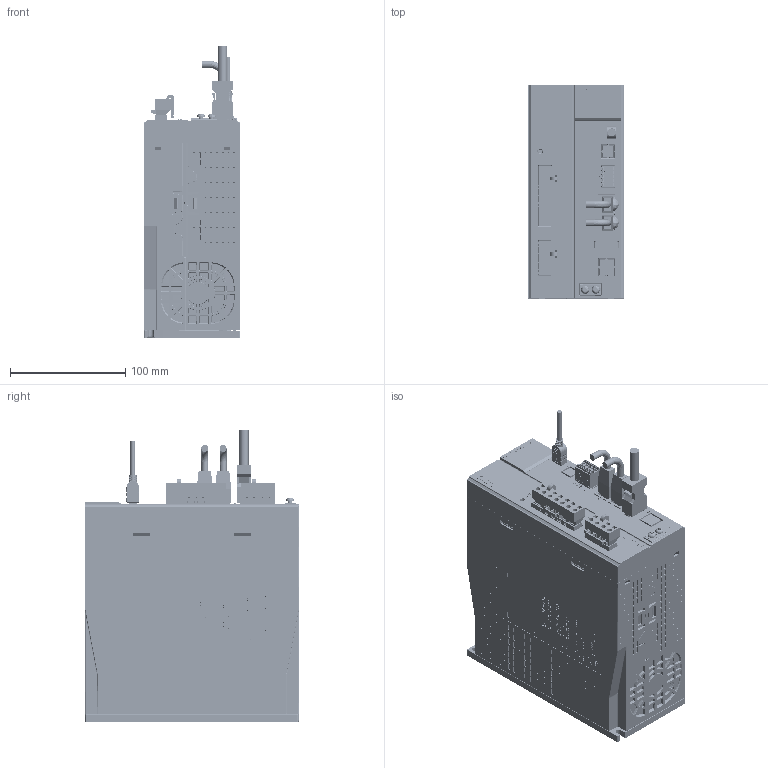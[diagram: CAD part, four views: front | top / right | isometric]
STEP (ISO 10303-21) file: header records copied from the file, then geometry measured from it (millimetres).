
FILE_DESCRIPTION(/* description */ (''),/* implementation_level */ '2;1');
FILE_NAME(/* name */ 'DS5C2-22P6-PTA-官网图-EPLAN图-240423',/* time_stamp */ '2024-04-23T16:56:21+08:00',/* author */ (''),/* organization */ (''),/* preprocessor_version */ 'ST-DEVELOPER v19.2',/* originating_system */ 'Rhino 8.1',/* authorisation */ '');
FILE_SCHEMA (('CONFIG_CONTROL_DESIGN'));
Products named in the file (3): Document; 图块 01; 图块 02
Bounding box: 83.1 x 185.7 x 252.2 mm (x, y, z)
Volume: 1977734 mm3; surface area: 513303 mm2
Topology: 927 solids, 929 shells, 24947 faces, 65699 edges, 42944 vertices
Faces by surface type: plane 17377, cylinder 4310, bspline 3260
Entity records: 855845 total; most frequent: CARTESIAN_POINT 388123, ORIENTED_EDGE 130888, EDGE_CURVE 65468, B_SPLINE_CURVE_WITH_KNOTS 61273, VERTEX_POINT 42944, DIRECTION 29565, EDGE_LOOP 26700, AXIS2_PLACEMENT_3D 25621
